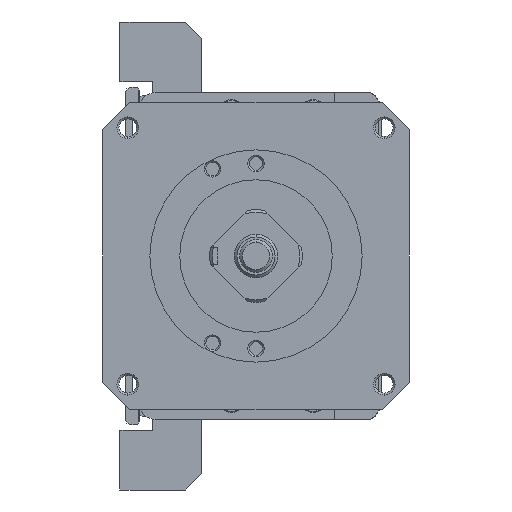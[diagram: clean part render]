
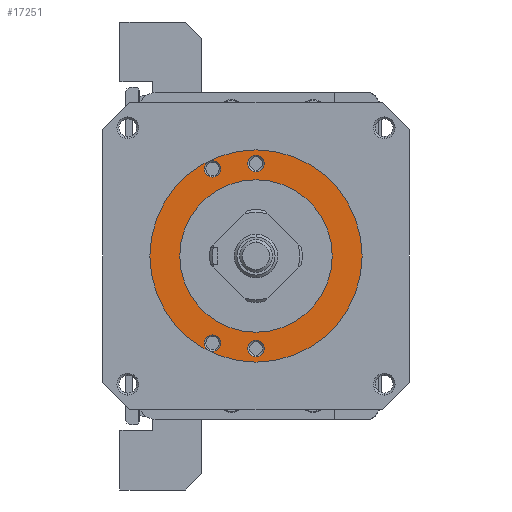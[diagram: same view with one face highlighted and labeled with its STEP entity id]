
A CAD part, left-side view. The second image highlights one B-rep face of the part: STEP entity #17251.
In plain terms, the highlighted planar face has unit normal (-1, 0, 0).
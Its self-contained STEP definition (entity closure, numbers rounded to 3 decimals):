
#257 = VERTEX_POINT ( 'NONE', #12835 ) ;
#258 = VERTEX_POINT ( 'NONE', #12836 ) ;
#259 = VERTEX_POINT ( 'NONE', #12837 ) ;
#260 = VERTEX_POINT ( 'NONE', #12838 ) ;
#261 = VERTEX_POINT ( 'NONE', #12839 ) ;
#262 = VERTEX_POINT ( 'NONE', #12841 ) ;
#768 = VERTEX_POINT ( 'NONE', #21591 ) ;
#769 = VERTEX_POINT ( 'NONE', #21592 ) ;
#817 = VERTEX_POINT ( 'NONE', #21640 ) ;
#818 = VERTEX_POINT ( 'NONE', #21641 ) ;
#907 = VERTEX_POINT ( 'NONE', #21730 ) ;
#908 = VERTEX_POINT ( 'NONE', #21731 ) ;
#2455 = CARTESIAN_POINT ( 'NONE',  ( -64., 0., 0. ) ) ;
#2456 = DIRECTION ( 'NONE',  ( 1., 0., 0. ) ) ;
#2457 = DIRECTION ( 'NONE',  ( 0., 0., 1. ) ) ;
#2991 = CIRCLE ( 'NONE', #16272, 14. ) ;
#3088 = CIRCLE ( 'NONE', #16303, 19.5 ) ;
#3116 = CIRCLE ( 'NONE', #16309, 1.5 ) ;
#3121 = CIRCLE ( 'NONE', #16310, 1.5 ) ;
#3126 = CIRCLE ( 'NONE', #16311, 1.5 ) ;
#3131 = CIRCLE ( 'NONE', #16312, 1.5 ) ;
#3134 = CIRCLE ( 'NONE', #16314, 1.5 ) ;
#3136 = CIRCLE ( 'NONE', #16316, 1.5 ) ;
#3138 = CIRCLE ( 'NONE', #16318, 1.5 ) ;
#3140 = CIRCLE ( 'NONE', #16320, 1.5 ) ;
#3149 = CIRCLE ( 'NONE', #16329, 19.5 ) ;
#3160 = CIRCLE ( 'NONE', #16339, 14. ) ;
#3740 = CARTESIAN_POINT ( 'NONE',  ( -64., 0., 0. ) ) ;
#3741 = DIRECTION ( 'NONE',  ( 1., 0., 0. ) ) ;
#3742 = DIRECTION ( 'NONE',  ( 0., 0., 1. ) ) ;
#3780 = CARTESIAN_POINT ( 'NONE',  ( -64., 0., -17. ) ) ;
#3781 = DIRECTION ( 'NONE',  ( -1., 0., 0. ) ) ;
#3782 = DIRECTION ( 'NONE',  ( 0., 0., 1. ) ) ;
#3787 = CARTESIAN_POINT ( 'NONE',  ( -64., 8., 16. ) ) ;
#3788 = DIRECTION ( 'NONE',  ( -1., 0., 0. ) ) ;
#3789 = DIRECTION ( 'NONE',  ( 0., 0., 1. ) ) ;
#3794 = CARTESIAN_POINT ( 'NONE',  ( -64., 0., 17. ) ) ;
#3795 = DIRECTION ( 'NONE',  ( -1., 0., 0. ) ) ;
#3796 = DIRECTION ( 'NONE',  ( 0., 0., 1. ) ) ;
#3801 = CARTESIAN_POINT ( 'NONE',  ( -64., 8., -16. ) ) ;
#3802 = DIRECTION ( 'NONE',  ( -1., 0., 0. ) ) ;
#3803 = DIRECTION ( 'NONE',  ( 0., 0., 1. ) ) ;
#3809 = CARTESIAN_POINT ( 'NONE',  ( -64., 8., -16. ) ) ;
#3810 = DIRECTION ( 'NONE',  ( -1., 0., 0. ) ) ;
#3811 = DIRECTION ( 'NONE',  ( 0., 0., 1. ) ) ;
#3815 = CARTESIAN_POINT ( 'NONE',  ( -64., 0., 17. ) ) ;
#3816 = DIRECTION ( 'NONE',  ( -1., 0., 0. ) ) ;
#3817 = DIRECTION ( 'NONE',  ( 0., 0., 1. ) ) ;
#3821 = CARTESIAN_POINT ( 'NONE',  ( -64., 8., 16. ) ) ;
#3822 = DIRECTION ( 'NONE',  ( -1., 0., 0. ) ) ;
#3823 = DIRECTION ( 'NONE',  ( 0., 0., 1. ) ) ;
#3827 = CARTESIAN_POINT ( 'NONE',  ( -64., 0., -17. ) ) ;
#3828 = DIRECTION ( 'NONE',  ( -1., 0., 0. ) ) ;
#3829 = DIRECTION ( 'NONE',  ( 0., 0., 1. ) ) ;
#3854 = CARTESIAN_POINT ( 'NONE',  ( -64., 0., 0. ) ) ;
#3855 = DIRECTION ( 'NONE',  ( 1., 0., 0. ) ) ;
#3856 = DIRECTION ( 'NONE',  ( 0., 0., 1. ) ) ;
#3884 = CARTESIAN_POINT ( 'NONE',  ( -64., 0., 0. ) ) ;
#3885 = DIRECTION ( 'NONE',  ( 1., 0., 0. ) ) ;
#3886 = DIRECTION ( 'NONE',  ( 0., 0., 1. ) ) ;
#8331 = AXIS2_PLACEMENT_3D ( 'NONE', #12151, #12152, #12153 ) ;
#10494 = FACE_OUTER_BOUND ( 'NONE', #17489, .T. ) ;
#10495 = FACE_BOUND ( 'NONE', #17488, .T. ) ;
#10496 = FACE_BOUND ( 'NONE', #17487, .T. ) ;
#10497 = FACE_BOUND ( 'NONE', #17486, .T. ) ;
#10498 = FACE_BOUND ( 'NONE', #17485, .T. ) ;
#10499 = FACE_BOUND ( 'NONE', #17484, .T. ) ;
#12150 = PLANE ( 'NONE',  #8331 ) ;
#12151 = CARTESIAN_POINT ( 'NONE',  ( -64., 16.75, 0. ) ) ;
#12152 = DIRECTION ( 'NONE',  ( 1., 0., 0. ) ) ;
#12153 = DIRECTION ( 'NONE',  ( 0., 0., -1. ) ) ;
#12835 = CARTESIAN_POINT ( 'NONE',  ( -64., 8., -14.5 ) ) ;
#12836 = CARTESIAN_POINT ( 'NONE',  ( -64., 8., -17.5 ) ) ;
#12837 = CARTESIAN_POINT ( 'NONE',  ( -64., 0., 18.5 ) ) ;
#12838 = CARTESIAN_POINT ( 'NONE',  ( -64., 0., 15.5 ) ) ;
#12839 = CARTESIAN_POINT ( 'NONE',  ( -64., 8., 17.5 ) ) ;
#12841 = CARTESIAN_POINT ( 'NONE',  ( -64., 8., 14.5 ) ) ;
#15035 = EDGE_CURVE ( 'NONE', #818, #817, #2991, .T. ) ;
#15099 = EDGE_CURVE ( 'NONE', #769, #768, #3088, .T. ) ;
#15116 = EDGE_CURVE ( 'NONE', #907, #908, #3116, .T. ) ;
#15119 = EDGE_CURVE ( 'NONE', #262, #261, #3121, .T. ) ;
#15122 = EDGE_CURVE ( 'NONE', #260, #259, #3126, .T. ) ;
#15125 = EDGE_CURVE ( 'NONE', #258, #257, #3131, .T. ) ;
#15128 = EDGE_CURVE ( 'NONE', #257, #258, #3134, .T. ) ;
#15130 = EDGE_CURVE ( 'NONE', #259, #260, #3136, .T. ) ;
#15132 = EDGE_CURVE ( 'NONE', #261, #262, #3138, .T. ) ;
#15134 = EDGE_CURVE ( 'NONE', #908, #907, #3140, .T. ) ;
#15143 = EDGE_CURVE ( 'NONE', #768, #769, #3149, .T. ) ;
#15153 = EDGE_CURVE ( 'NONE', #817, #818, #3160, .T. ) ;
#16272 = AXIS2_PLACEMENT_3D ( 'NONE', #2455, #2456, #2457 ) ;
#16303 = AXIS2_PLACEMENT_3D ( 'NONE', #3740, #3741, #3742 ) ;
#16309 = AXIS2_PLACEMENT_3D ( 'NONE', #3780, #3781, #3782 ) ;
#16310 = AXIS2_PLACEMENT_3D ( 'NONE', #3787, #3788, #3789 ) ;
#16311 = AXIS2_PLACEMENT_3D ( 'NONE', #3794, #3795, #3796 ) ;
#16312 = AXIS2_PLACEMENT_3D ( 'NONE', #3801, #3802, #3803 ) ;
#16314 = AXIS2_PLACEMENT_3D ( 'NONE', #3809, #3810, #3811 ) ;
#16316 = AXIS2_PLACEMENT_3D ( 'NONE', #3815, #3816, #3817 ) ;
#16318 = AXIS2_PLACEMENT_3D ( 'NONE', #3821, #3822, #3823 ) ;
#16320 = AXIS2_PLACEMENT_3D ( 'NONE', #3827, #3828, #3829 ) ;
#16329 = AXIS2_PLACEMENT_3D ( 'NONE', #3854, #3855, #3856 ) ;
#16339 = AXIS2_PLACEMENT_3D ( 'NONE', #3884, #3885, #3886 ) ;
#17251 = ADVANCED_FACE ( 'NONE', ( #10494, #10495, #10496, #10497, #10498, #10499 ), #12150, .F. ) ;
#17484 = EDGE_LOOP ( 'NONE', ( #20276, #20277 ) ) ;
#17485 = EDGE_LOOP ( 'NONE', ( #20274, #20275 ) ) ;
#17486 = EDGE_LOOP ( 'NONE', ( #20272, #20273 ) ) ;
#17487 = EDGE_LOOP ( 'NONE', ( #20270, #20271 ) ) ;
#17488 = EDGE_LOOP ( 'NONE', ( #20268, #20269 ) ) ;
#17489 = EDGE_LOOP ( 'NONE', ( #20266, #20267 ) ) ;
#20266 = ORIENTED_EDGE ( 'NONE', *, *, #15099, .F. ) ;
#20267 = ORIENTED_EDGE ( 'NONE', *, *, #15143, .F. ) ;
#20268 = ORIENTED_EDGE ( 'NONE', *, *, #15035, .T. ) ;
#20269 = ORIENTED_EDGE ( 'NONE', *, *, #15153, .T. ) ;
#20270 = ORIENTED_EDGE ( 'NONE', *, *, #15134, .F. ) ;
#20271 = ORIENTED_EDGE ( 'NONE', *, *, #15116, .F. ) ;
#20272 = ORIENTED_EDGE ( 'NONE', *, *, #15132, .F. ) ;
#20273 = ORIENTED_EDGE ( 'NONE', *, *, #15119, .F. ) ;
#20274 = ORIENTED_EDGE ( 'NONE', *, *, #15130, .F. ) ;
#20275 = ORIENTED_EDGE ( 'NONE', *, *, #15122, .F. ) ;
#20276 = ORIENTED_EDGE ( 'NONE', *, *, #15128, .F. ) ;
#20277 = ORIENTED_EDGE ( 'NONE', *, *, #15125, .F. ) ;
#21591 = CARTESIAN_POINT ( 'NONE',  ( -64., 0., -19.5 ) ) ;
#21592 = CARTESIAN_POINT ( 'NONE',  ( -64., 0., 19.5 ) ) ;
#21640 = CARTESIAN_POINT ( 'NONE',  ( -64., 0., -14. ) ) ;
#21641 = CARTESIAN_POINT ( 'NONE',  ( -64., 0., 14. ) ) ;
#21730 = CARTESIAN_POINT ( 'NONE',  ( -64., 0., -18.5 ) ) ;
#21731 = CARTESIAN_POINT ( 'NONE',  ( -64., 0., -15.5 ) ) ;
